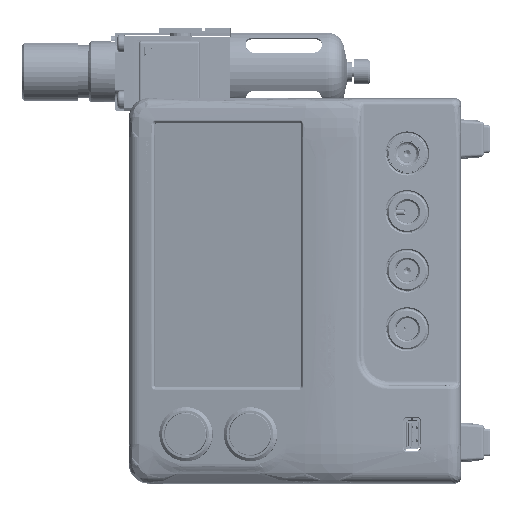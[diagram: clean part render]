
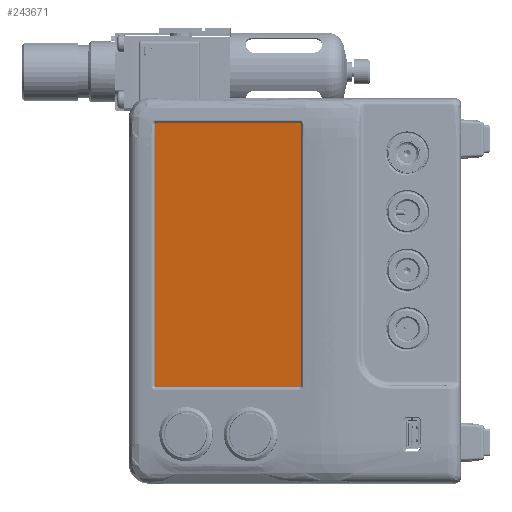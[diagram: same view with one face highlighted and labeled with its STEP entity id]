
A CAD part, left-side view. The second image highlights one B-rep face of the part: STEP entity #243671.
In plain terms, the highlighted planar face has unit normal (-0.985, 0.174, 0).
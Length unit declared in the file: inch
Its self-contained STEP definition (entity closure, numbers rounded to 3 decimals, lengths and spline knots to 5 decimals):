
#2102 = EDGE_CURVE ( 'NONE', #104936, #153822, #175047, .T. ) ;
#4910 = ORIENTED_EDGE ( 'NONE', *, *, #227940, .T. ) ;
#6376 = VECTOR ( 'NONE', #182678, 39.37008 ) ;
#18374 = LINE ( 'NONE', #41231, #40318 ) ;
#21475 = CARTESIAN_POINT ( 'NONE',  ( -9.34682, 5.45731, 3.03658 ) ) ;
#22463 = CARTESIAN_POINT ( 'NONE',  ( -9.81376, 2.80918, 3.03658 ) ) ;
#40318 = VECTOR ( 'NONE', #43870, 39.37008 ) ;
#41231 = CARTESIAN_POINT ( 'NONE',  ( -9.34682, 5.45731, -1.73901 ) ) ;
#43870 = DIRECTION ( 'NONE',  ( 0., 0., -1. ) ) ;
#54057 = ORIENTED_EDGE ( 'NONE', *, *, #264581, .T. ) ;
#54211 = ORIENTED_EDGE ( 'NONE', *, *, #68521, .T. ) ;
#63811 = CARTESIAN_POINT ( 'NONE',  ( -9.81376, 2.80918, -1.73901 ) ) ;
#68521 = EDGE_CURVE ( 'NONE', #257217, #242039, #18374, .T. ) ;
#69070 = CARTESIAN_POINT ( 'NONE',  ( -10.21427, 0.53776, 5.15734 ) ) ;
#75346 = CARTESIAN_POINT ( 'NONE',  ( -9.81376, 2.80918, 3.03658 ) ) ;
#88916 = CARTESIAN_POINT ( 'NONE',  ( -9.81376, 2.80918, -1.73901 ) ) ;
#90630 = DIRECTION ( 'NONE',  ( 0.174, 0.985, 0. ) ) ;
#100863 = DIRECTION ( 'NONE',  ( 0.174, 0.985, 0. ) ) ;
#104936 = VERTEX_POINT ( 'NONE', #63811 ) ;
#111748 = CARTESIAN_POINT ( 'NONE',  ( -9.81376, 2.80918, -1.73901 ) ) ;
#126644 = DIRECTION ( 'NONE',  ( -0.174, -0.985, 0. ) ) ;
#132373 = PLANE ( 'NONE',  #252171 ) ;
#148203 = LINE ( 'NONE', #88916, #190675 ) ;
#153822 = VERTEX_POINT ( 'NONE', #22463 ) ;
#156754 = VECTOR ( 'NONE', #100863, 39.37008 ) ;
#173568 = ORIENTED_EDGE ( 'NONE', *, *, #2102, .T. ) ;
#175047 = LINE ( 'NONE', #111748, #6376 ) ;
#182678 = DIRECTION ( 'NONE',  ( 0., 0., 1. ) ) ;
#190675 = VECTOR ( 'NONE', #126644, 39.37008 ) ;
#192996 = DIRECTION ( 'NONE',  ( -0.985, 0.174, 0. ) ) ;
#211875 = FACE_OUTER_BOUND ( 'NONE', #241943, .T. ) ;
#223359 = CARTESIAN_POINT ( 'NONE',  ( -9.34682, 5.45731, -1.73901 ) ) ;
#227940 = EDGE_CURVE ( 'NONE', #242039, #104936, #148203, .T. ) ;
#241943 = EDGE_LOOP ( 'NONE', ( #54211, #4910, #173568, #54057 ) ) ;
#242039 = VERTEX_POINT ( 'NONE', #223359 ) ;
#243671 = ADVANCED_FACE ( 'NONE', ( #211875 ), #132373, .T. ) ;
#252171 = AXIS2_PLACEMENT_3D ( 'NONE', #69070, #192996, #90630 ) ;
#257217 = VERTEX_POINT ( 'NONE', #21475 ) ;
#259899 = LINE ( 'NONE', #75346, #156754 ) ;
#264581 = EDGE_CURVE ( 'NONE', #153822, #257217, #259899, .T. ) ;
